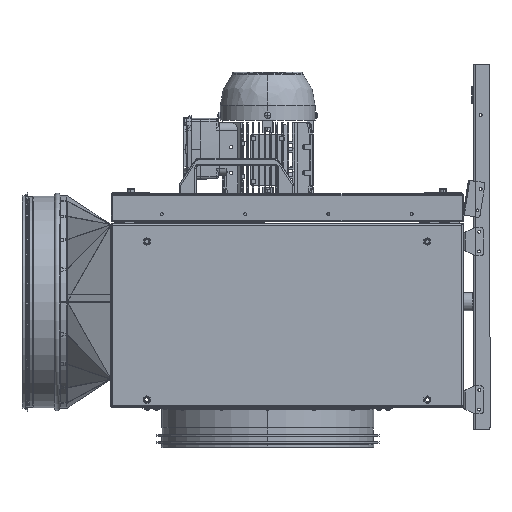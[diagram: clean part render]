
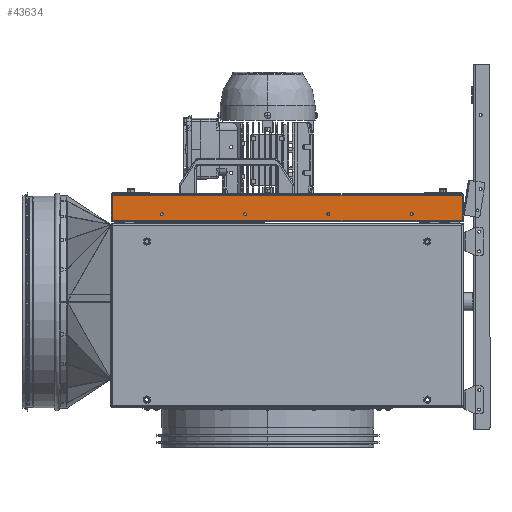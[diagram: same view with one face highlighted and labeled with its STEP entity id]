
A CAD part, left-side view. The second image highlights one B-rep face of the part: STEP entity #43634.
In plain terms, the highlighted planar face has unit normal (-1, 0, 0).
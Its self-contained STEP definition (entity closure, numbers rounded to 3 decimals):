
#1505 = EDGE_CURVE ( 'NONE', #42110, #136938, #59208, .T. ) ;
#1942 = DIRECTION ( 'NONE',  ( 0., -1., 0. ) ) ;
#2503 = DIRECTION ( 'NONE',  ( 1., 0., 0. ) ) ;
#4270 = AXIS2_PLACEMENT_3D ( 'NONE', #42011, #60904, #49625 ) ;
#5137 = LINE ( 'NONE', #131089, #87825 ) ;
#5487 = LINE ( 'NONE', #35061, #59390 ) ;
#7537 = CARTESIAN_POINT ( 'NONE',  ( -296.03, -60.96, 285.4 ) ) ;
#8147 = DIRECTION ( 'NONE',  ( 0., 0., -1. ) ) ;
#12200 = ORIENTED_EDGE ( 'NONE', *, *, #44828, .T. ) ;
#13011 = DIRECTION ( 'NONE',  ( 1., 0., 0. ) ) ;
#13717 = LINE ( 'NONE', #29146, #42375 ) ;
#15254 = ORIENTED_EDGE ( 'NONE', *, *, #87026, .T. ) ;
#15736 = EDGE_CURVE ( 'NONE', #56111, #19059, #5487, .T. ) ;
#18391 = DIRECTION ( 'NONE',  ( 0., 0., -1. ) ) ;
#19059 = VERTEX_POINT ( 'NONE', #70727 ) ;
#20491 = EDGE_LOOP ( 'NONE', ( #125349, #117505 ) ) ;
#22598 = EDGE_LOOP ( 'NONE', ( #58121, #114889 ) ) ;
#24349 = ORIENTED_EDGE ( 'NONE', *, *, #100199, .T. ) ;
#25692 = FACE_BOUND ( 'NONE', #22598, .T. ) ;
#26556 = EDGE_CURVE ( 'NONE', #56111, #127565, #90222, .T. ) ;
#29146 = CARTESIAN_POINT ( 'NONE',  ( -296.03, -258.84, 274.9 ) ) ;
#31409 = EDGE_LOOP ( 'NONE', ( #53336, #82318 ) ) ;
#34216 = CARTESIAN_POINT ( 'NONE',  ( -296.03, -258.84, 274.9 ) ) ;
#34855 = DIRECTION ( 'NONE',  ( 0., 0., -1. ) ) ;
#34986 = CARTESIAN_POINT ( 'NONE',  ( -296.03, 185.04, 285.4 ) ) ;
#35061 = CARTESIAN_POINT ( 'NONE',  ( -296.03, 259.24, 313.4 ) ) ;
#36987 = EDGE_CURVE ( 'NONE', #52405, #44741, #76385, .T. ) ;
#38516 = CIRCLE ( 'NONE', #56588, 2.1 ) ;
#39896 = DIRECTION ( 'NONE',  ( 0., -1., 0. ) ) ;
#40845 = EDGE_LOOP ( 'NONE', ( #67140, #12200, #24349, #49505 ) ) ;
#41315 = EDGE_CURVE ( 'NONE', #80643, #68673, #68714, .T. ) ;
#41385 = DIRECTION ( 'NONE',  ( 1., 0., 0. ) ) ;
#41890 = CIRCLE ( 'NONE', #48819, 2.1 ) ;
#42011 = CARTESIAN_POINT ( 'NONE',  ( -296.03, -183.96, 285.4 ) ) ;
#42110 = VERTEX_POINT ( 'NONE', #137306 ) ;
#42375 = VECTOR ( 'NONE', #93785, 1000. ) ;
#43389 = AXIS2_PLACEMENT_3D ( 'NONE', #51130, #126538, #61923 ) ;
#43634 = ADVANCED_FACE ( 'NONE', ( #25692, #105012, #79665, #76255, #47608 ), #83830, .F. ) ;
#44741 = VERTEX_POINT ( 'NONE', #51859 ) ;
#44828 = EDGE_CURVE ( 'NONE', #127565, #56395, #5137, .T. ) ;
#45835 = DIRECTION ( 'NONE',  ( 0., 0., -1. ) ) ;
#47284 = VERTEX_POINT ( 'NONE', #55420 ) ;
#47608 = FACE_BOUND ( 'NONE', #20491, .T. ) ;
#48819 = AXIS2_PLACEMENT_3D ( 'NONE', #7537, #82917, #18391 ) ;
#49505 = ORIENTED_EDGE ( 'NONE', *, *, #15736, .F. ) ;
#49625 = DIRECTION ( 'NONE',  ( 0., 0., -1. ) ) ;
#51130 = CARTESIAN_POINT ( 'NONE',  ( -296.03, 185.04, 285.4 ) ) ;
#51859 = CARTESIAN_POINT ( 'NONE',  ( -296.03, 185.04, 287.5 ) ) ;
#52405 = VERTEX_POINT ( 'NONE', #92856 ) ;
#52809 = AXIS2_PLACEMENT_3D ( 'NONE', #34986, #110411, #45835 ) ;
#53336 = ORIENTED_EDGE ( 'NONE', *, *, #36987, .T. ) ;
#54236 = DIRECTION ( 'NONE',  ( 1., 0., 0. ) ) ;
#55420 = CARTESIAN_POINT ( 'NONE',  ( -296.03, -60.96, 283.3 ) ) ;
#56111 = VERTEX_POINT ( 'NONE', #105011 ) ;
#56395 = VERTEX_POINT ( 'NONE', #34216 ) ;
#56588 = AXIS2_PLACEMENT_3D ( 'NONE', #118844, #54236, #129674 ) ;
#56869 = CIRCLE ( 'NONE', #92449, 2.1 ) ;
#58121 = ORIENTED_EDGE ( 'NONE', *, *, #41315, .T. ) ;
#59208 = CIRCLE ( 'NONE', #4270, 2.1 ) ;
#59390 = VECTOR ( 'NONE', #39896, 1000. ) ;
#60904 = DIRECTION ( 'NONE',  ( 1., 0., 0. ) ) ;
#61443 = VECTOR ( 'NONE', #34855, 1000. ) ;
#61923 = DIRECTION ( 'NONE',  ( 0., 0., -1. ) ) ;
#67046 = CARTESIAN_POINT ( 'NONE',  ( -296.03, -60.96, 285.4 ) ) ;
#67140 = ORIENTED_EDGE ( 'NONE', *, *, #26556, .T. ) ;
#68371 = AXIS2_PLACEMENT_3D ( 'NONE', #67046, #2503, #77906 ) ;
#68673 = VERTEX_POINT ( 'NONE', #131359 ) ;
#68714 = CIRCLE ( 'NONE', #75698, 2.1 ) ;
#70727 = CARTESIAN_POINT ( 'NONE',  ( -296.03, -258.84, 313.4 ) ) ;
#72683 = DIRECTION ( 'NONE',  ( 1., 0., 0. ) ) ;
#75698 = AXIS2_PLACEMENT_3D ( 'NONE', #77553, #13011, #88436 ) ;
#76255 = FACE_BOUND ( 'NONE', #94276, .T. ) ;
#76385 = CIRCLE ( 'NONE', #52809, 2.1 ) ;
#77539 = CIRCLE ( 'NONE', #68371, 2.1 ) ;
#77553 = CARTESIAN_POINT ( 'NONE',  ( -296.03, 62.04, 285.4 ) ) ;
#77906 = DIRECTION ( 'NONE',  ( 0., 0., -1. ) ) ;
#77999 = CARTESIAN_POINT ( 'NONE',  ( -296.03, 62.04, 283.3 ) ) ;
#78204 = CARTESIAN_POINT ( 'NONE',  ( -296.03, 258.04, 313.4 ) ) ;
#79665 = FACE_OUTER_BOUND ( 'NONE', #40845, .T. ) ;
#80643 = VERTEX_POINT ( 'NONE', #77999 ) ;
#82318 = ORIENTED_EDGE ( 'NONE', *, *, #105252, .T. ) ;
#82917 = DIRECTION ( 'NONE',  ( 1., 0., 0. ) ) ;
#83830 = PLANE ( 'NONE',  #136476 ) ;
#87026 = EDGE_CURVE ( 'NONE', #47284, #107549, #41890, .T. ) ;
#87825 = VECTOR ( 'NONE', #1942, 1000. ) ;
#88436 = DIRECTION ( 'NONE',  ( 0., 0., -1. ) ) ;
#90222 = LINE ( 'NONE', #78204, #61443 ) ;
#92449 = AXIS2_PLACEMENT_3D ( 'NONE', #137345, #72683, #8147 ) ;
#92856 = CARTESIAN_POINT ( 'NONE',  ( -296.03, 185.04, 283.3 ) ) ;
#92867 = ORIENTED_EDGE ( 'NONE', *, *, #101162, .T. ) ;
#93785 = DIRECTION ( 'NONE',  ( 0., 0., 1. ) ) ;
#94276 = EDGE_LOOP ( 'NONE', ( #15254, #92867 ) ) ;
#95848 = CARTESIAN_POINT ( 'NONE',  ( -296.03, 258.04, 274.9 ) ) ;
#100199 = EDGE_CURVE ( 'NONE', #56395, #19059, #13717, .T. ) ;
#101162 = EDGE_CURVE ( 'NONE', #107549, #47284, #77539, .T. ) ;
#105011 = CARTESIAN_POINT ( 'NONE',  ( -296.03, 258.04, 313.4 ) ) ;
#105012 = FACE_BOUND ( 'NONE', #31409, .T. ) ;
#105252 = EDGE_CURVE ( 'NONE', #44741, #52405, #133166, .T. ) ;
#105994 = CARTESIAN_POINT ( 'NONE',  ( -296.03, 259.24, 314.6 ) ) ;
#107549 = VERTEX_POINT ( 'NONE', #110159 ) ;
#110159 = CARTESIAN_POINT ( 'NONE',  ( -296.03, -60.96, 287.5 ) ) ;
#110411 = DIRECTION ( 'NONE',  ( 1., 0., 0. ) ) ;
#114889 = ORIENTED_EDGE ( 'NONE', *, *, #138749, .T. ) ;
#116805 = DIRECTION ( 'NONE',  ( 0., 0., -1. ) ) ;
#117505 = ORIENTED_EDGE ( 'NONE', *, *, #133320, .T. ) ;
#118844 = CARTESIAN_POINT ( 'NONE',  ( -296.03, -183.96, 285.4 ) ) ;
#121050 = CARTESIAN_POINT ( 'NONE',  ( -296.03, -183.96, 287.5 ) ) ;
#125349 = ORIENTED_EDGE ( 'NONE', *, *, #1505, .T. ) ;
#126538 = DIRECTION ( 'NONE',  ( 1., 0., 0. ) ) ;
#127565 = VERTEX_POINT ( 'NONE', #95848 ) ;
#129674 = DIRECTION ( 'NONE',  ( 0., 0., -1. ) ) ;
#131089 = CARTESIAN_POINT ( 'NONE',  ( -296.03, -260.04, 274.9 ) ) ;
#131359 = CARTESIAN_POINT ( 'NONE',  ( -296.03, 62.04, 287.5 ) ) ;
#133166 = CIRCLE ( 'NONE', #43389, 2.1 ) ;
#133320 = EDGE_CURVE ( 'NONE', #136938, #42110, #38516, .T. ) ;
#136476 = AXIS2_PLACEMENT_3D ( 'NONE', #105994, #41385, #116805 ) ;
#136938 = VERTEX_POINT ( 'NONE', #121050 ) ;
#137306 = CARTESIAN_POINT ( 'NONE',  ( -296.03, -183.96, 283.3 ) ) ;
#137345 = CARTESIAN_POINT ( 'NONE',  ( -296.03, 62.04, 285.4 ) ) ;
#138749 = EDGE_CURVE ( 'NONE', #68673, #80643, #56869, .T. ) ;
